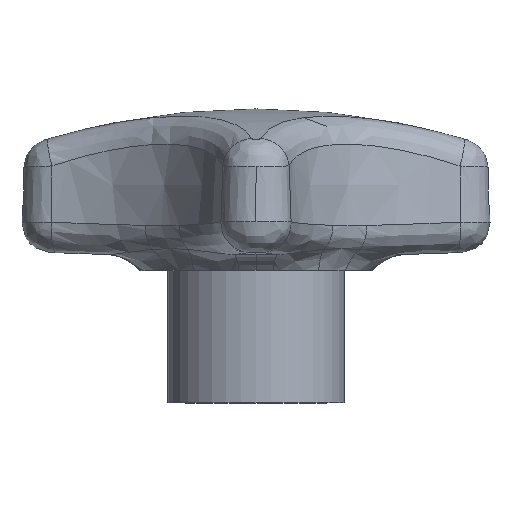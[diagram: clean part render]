
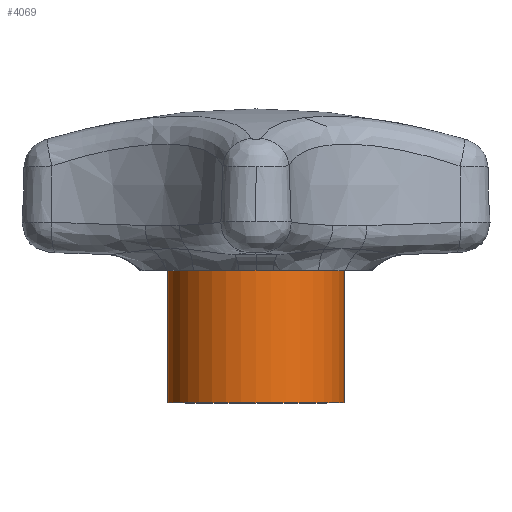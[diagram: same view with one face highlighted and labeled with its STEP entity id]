
A CAD part, top view. The second image highlights one B-rep face of the part: STEP entity #4069.
In plain terms, the highlighted cylindrical face has radius 6 mm (diameter 12 mm), a partial arc.
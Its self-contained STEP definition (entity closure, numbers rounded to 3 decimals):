
#148 = EDGE_CURVE ( 'NONE', #3712, #2786, #3895, .T. ) ;
#159 = LINE ( 'NONE', #3278, #1503 ) ;
#199 = DIRECTION ( 'NONE',  ( 0., -1., 0. ) ) ;
#257 = DIRECTION ( 'NONE',  ( 0., -1., 0. ) ) ;
#504 = ORIENTED_EDGE ( 'NONE', *, *, #4100, .F. ) ;
#578 = EDGE_CURVE ( 'NONE', #2786, #2194, #159, .T. ) ;
#740 = FACE_OUTER_BOUND ( 'NONE', #4006, .T. ) ;
#796 = DIRECTION ( 'NONE',  ( 0., -1., 0. ) ) ;
#817 = CARTESIAN_POINT ( 'NONE',  ( 0., 0., 0. ) ) ;
#865 = DIRECTION ( 'NONE',  ( 0., -1., 0. ) ) ;
#966 = ORIENTED_EDGE ( 'NONE', *, *, #578, .T. ) ;
#1002 = AXIS2_PLACEMENT_3D ( 'NONE', #817, #4012, #2332 ) ;
#1017 = CARTESIAN_POINT ( 'NONE',  ( 6., 9., 0. ) ) ;
#1152 = CARTESIAN_POINT ( 'NONE',  ( 0., 0., 0. ) ) ;
#1171 = DIRECTION ( 'NONE',  ( 1., 0., 0. ) ) ;
#1425 = ORIENTED_EDGE ( 'NONE', *, *, #148, .T. ) ;
#1471 = LINE ( 'NONE', #2725, #3153 ) ;
#1503 = VECTOR ( 'NONE', #796, 1000. ) ;
#1920 = CARTESIAN_POINT ( 'NONE',  ( -6., 0., 0. ) ) ;
#2194 = VERTEX_POINT ( 'NONE', #1920 ) ;
#2314 = ORIENTED_EDGE ( 'NONE', *, *, #3392, .F. ) ;
#2332 = DIRECTION ( 'NONE',  ( 1., 0., 0. ) ) ;
#2394 = CYLINDRICAL_SURFACE ( 'NONE', #1002, 6. ) ;
#2725 = CARTESIAN_POINT ( 'NONE',  ( 6., 0., 0. ) ) ;
#2786 = VERTEX_POINT ( 'NONE', #3486 ) ;
#3060 = CARTESIAN_POINT ( 'NONE',  ( 0., 9., 0. ) ) ;
#3153 = VECTOR ( 'NONE', #865, 1000. ) ;
#3203 = CARTESIAN_POINT ( 'NONE',  ( 6., 0., 0. ) ) ;
#3278 = CARTESIAN_POINT ( 'NONE',  ( -6., 0., 0. ) ) ;
#3317 = CIRCLE ( 'NONE', #3724, 6. ) ;
#3392 = EDGE_CURVE ( 'NONE', #3712, #3452, #1471, .T. ) ;
#3452 = VERTEX_POINT ( 'NONE', #3203 ) ;
#3486 = CARTESIAN_POINT ( 'NONE',  ( -6., 9., 0. ) ) ;
#3606 = DIRECTION ( 'NONE',  ( 1., 0., 0. ) ) ;
#3683 = AXIS2_PLACEMENT_3D ( 'NONE', #3060, #257, #1171 ) ;
#3712 = VERTEX_POINT ( 'NONE', #1017 ) ;
#3724 = AXIS2_PLACEMENT_3D ( 'NONE', #1152, #199, #3606 ) ;
#3895 = CIRCLE ( 'NONE', #3683, 6. ) ;
#4006 = EDGE_LOOP ( 'NONE', ( #1425, #966, #504, #2314 ) ) ;
#4012 = DIRECTION ( 'NONE',  ( 0., -1., 0. ) ) ;
#4069 = ADVANCED_FACE ( 'NONE', ( #740 ), #2394, .T. ) ;
#4100 = EDGE_CURVE ( 'NONE', #3452, #2194, #3317, .T. ) ;
